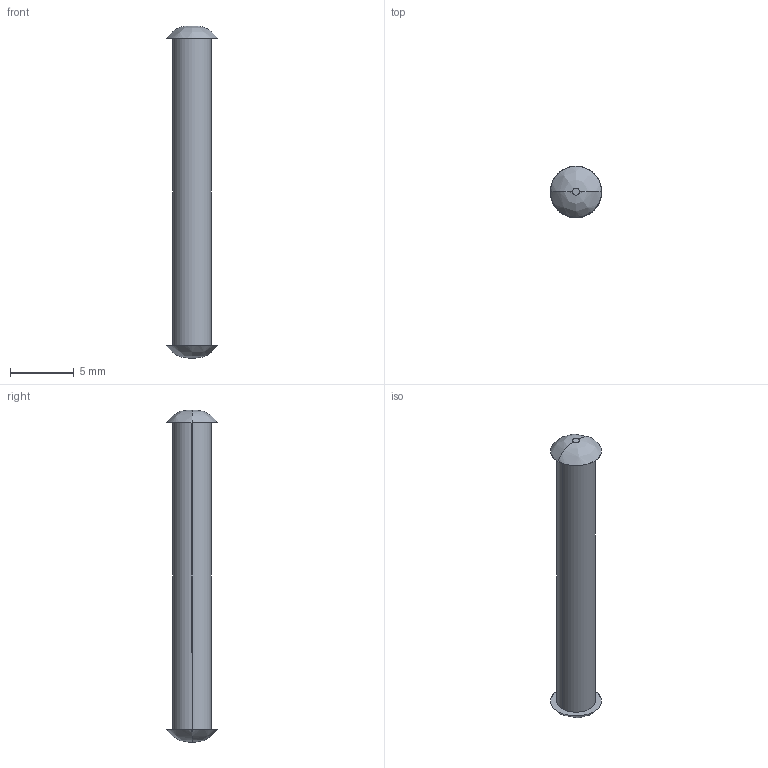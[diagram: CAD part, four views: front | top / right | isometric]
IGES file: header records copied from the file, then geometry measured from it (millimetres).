
Start section: SolidWorks IGES FILE using analytic representation for surfaces
Global section: file name: C:\Documents and Settings\lecoutey\Bureau\GR 2003\2003.050.10.IGS; native system: SolidWorks 2004 by SolidWorks Corporation; preprocessor: Version 5.3; author: lecoutey; date: 050405.093747; units: millimetre
Bounding box: 4 x 4 x 26 mm (x, y, z)
Surface area: 269.8 mm2 (no closed solid volume)
Topology: 0 solids, 0 shells, 10 faces, 184 edges, 184 vertices
Faces by surface type: bspline 8, revolution 2
